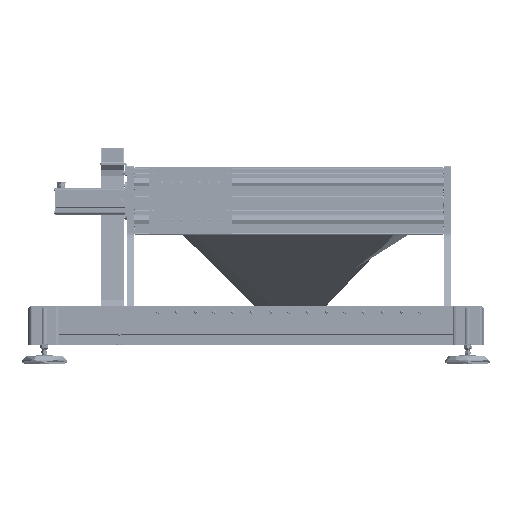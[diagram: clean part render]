
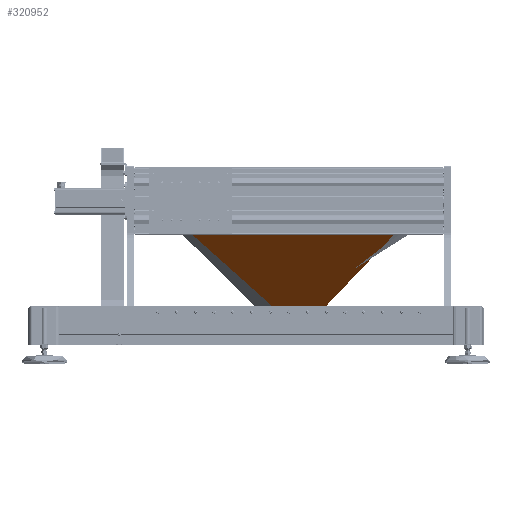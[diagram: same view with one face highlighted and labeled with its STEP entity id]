
A CAD part, top view. The second image highlights one B-rep face of the part: STEP entity #320952.
In plain terms, the highlighted cylindrical face has radius 0.5 mm (diameter 1 mm), a partial arc.
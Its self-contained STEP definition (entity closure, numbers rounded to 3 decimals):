
#43660 = EDGE_CURVE ( 'NONE', #123343, #377394, #280377, .T. ) ;
#44474 = DIRECTION ( 'NONE',  ( -1., 0., 0. ) ) ;
#54934 = CARTESIAN_POINT ( 'NONE',  ( 501., 481.82, -209.045 ) ) ;
#58567 = AXIS2_PLACEMENT_3D ( 'NONE', #111665, #44474, #316840 ) ;
#59316 = DIRECTION ( 'NONE',  ( 1., 0., 0. ) ) ;
#85373 = CARTESIAN_POINT ( 'NONE',  ( -325., 481.175, -209.335 ) ) ;
#88509 = EDGE_LOOP ( 'NONE', ( #326186, #218715, #151013, #230972 ) ) ;
#93529 = CARTESIAN_POINT ( 'NONE',  ( 501., 481.82, -209.045 ) ) ;
#111665 = CARTESIAN_POINT ( 'NONE',  ( 501., 481.643, -209.512 ) ) ;
#123343 = VERTEX_POINT ( 'NONE', #85373 ) ;
#129617 = VERTEX_POINT ( 'NONE', #314512 ) ;
#148382 = AXIS2_PLACEMENT_3D ( 'NONE', #177286, #416885, #211734 ) ;
#151013 = ORIENTED_EDGE ( 'NONE', *, *, #43660, .F. ) ;
#154140 = EDGE_CURVE ( 'NONE', #384930, #424180, #224972, .T. ) ;
#177286 = CARTESIAN_POINT ( 'NONE',  ( 501., 481.643, -209.512 ) ) ;
#197972 = CARTESIAN_POINT ( 'NONE',  ( -325., 481.643, -209.512 ) ) ;
#201375 = CARTESIAN_POINT ( 'NONE',  ( -325., 481.82, -209.045 ) ) ;
#204087 = ORIENTED_EDGE ( 'NONE', *, *, #249337, .F. ) ;
#204214 = VERTEX_POINT ( 'NONE', #387663 ) ;
#211734 = DIRECTION ( 'NONE',  ( 0., -1., 0. ) ) ;
#218715 = ORIENTED_EDGE ( 'NONE', *, *, #410221, .F. ) ;
#224972 = CIRCLE ( 'NONE', #148382, 0.5 ) ;
#230972 = ORIENTED_EDGE ( 'NONE', *, *, #204087, .F. ) ;
#231218 = CYLINDRICAL_SURFACE ( 'NONE', #58567, 0.5 ) ;
#232394 = DIRECTION ( 'NONE',  ( 0., -1., 0. ) ) ;
#233906 = FACE_OUTER_BOUND ( 'NONE', #88509, .T. ) ;
#249337 = EDGE_CURVE ( 'NONE', #204214, #129617, #290205, .T. ) ;
#280377 = CIRCLE ( 'NONE', #355319, 0.5 ) ;
#290118 = VECTOR ( 'NONE', #366782, 1000. ) ;
#290205 = LINE ( 'NONE', #434152, #290118 ) ;
#314512 = CARTESIAN_POINT ( 'NONE',  ( 120.749, 83., -695. ) ) ;
#316840 = DIRECTION ( 'NONE',  ( 0., 1., 0. ) ) ;
#320952 = ADVANCED_FACE ( 'NONE', ( #233906 ), #231218, .T. ) ;
#326186 = ORIENTED_EDGE ( 'NONE', *, *, #154140, .F. ) ;
#355319 = AXIS2_PLACEMENT_3D ( 'NONE', #197972, #437540, #232394 ) ;
#366782 = DIRECTION ( 'NONE',  ( 0., 0., 1. ) ) ;
#377394 = VERTEX_POINT ( 'NONE', #201375 ) ;
#384930 = VERTEX_POINT ( 'NONE', #93529 ) ;
#387663 = CARTESIAN_POINT ( 'NONE',  ( 120.749, 83., -880. ) ) ;
#406121 = CARTESIAN_POINT ( 'NONE',  ( 501., 481.175, -209.335 ) ) ;
#410221 = EDGE_CURVE ( 'NONE', #377394, #384930, #417315, .T. ) ;
#416885 = DIRECTION ( 'NONE',  ( 1., 0., 0. ) ) ;
#417315 = LINE ( 'NONE', #54934, #419431 ) ;
#419431 = VECTOR ( 'NONE', #59316, 1000. ) ;
#424180 = VERTEX_POINT ( 'NONE', #406121 ) ;
#434152 = CARTESIAN_POINT ( 'NONE',  ( 120.749, 83., -880. ) ) ;
#437540 = DIRECTION ( 'NONE',  ( -1., 0., 0. ) ) ;
